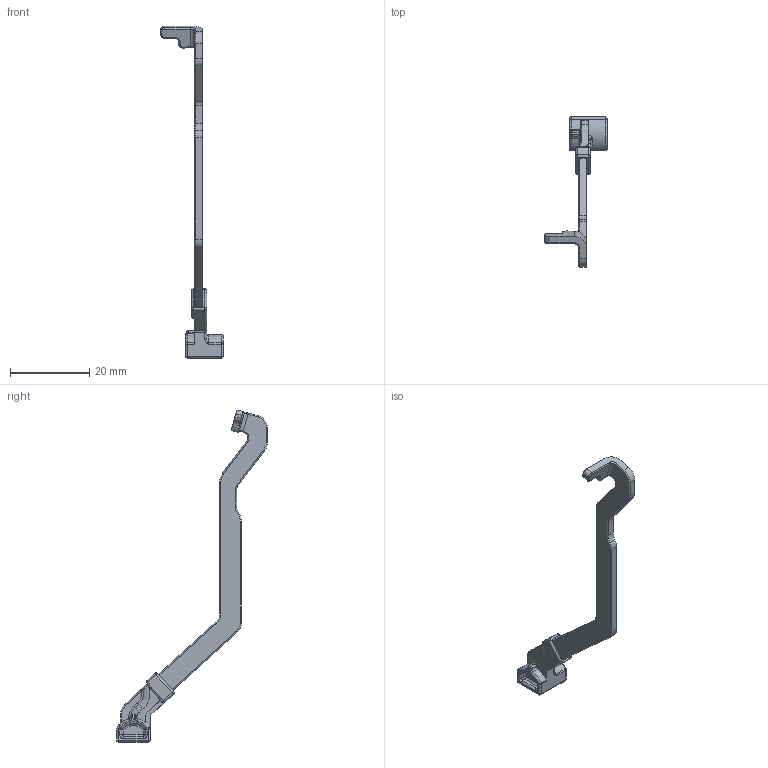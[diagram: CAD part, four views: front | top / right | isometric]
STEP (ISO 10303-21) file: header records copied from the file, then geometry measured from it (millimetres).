
FILE_DESCRIPTION(('CATIA V5 STEP Exchange','CAx-IF Rec.Pracs.--- Model Styling and Organization---1.4--- 2014-01-23'),'2;1');
FILE_NAME('C:\Users\DE-CON~2\AppData\Local\Temp\acs\11136\3059920\CAD00440388-5007-001-_-_CATPRODUCT.stp','2025-06-23T11:10:13+00:00',('none'),('none'),'CATIA Version 5-6 Release 2018 SP3','CATIA V5 STEP AP214','none');
FILE_SCHEMA(('AUTOMOTIVE_DESIGN { 1 0 10303 214 1 1 1 1 }'));
Length unit declared in the file: millimetre
Products named in the file (3): MNM_41539514_00_ENTRAINMENT-NEH_COMPLETE_LH_CAD00440388-5007_001-_-; UMM_45639514_00_OVERMOLD-NEH_MNM_LH_CAD00440388-0017_001-_-; MNM_42639514_00_MNM-NEH_CAD00440388-0018_001-_-
Assembly tree (2 placements, depth 2):
  MNM_41539514_00_ENTRAINMENT-NEH_COMPLETE_LH_CAD00440388-5007_001-_-
    UMM_45639514_00_OVERMOLD-NEH_MNM_LH_CAD00440388-0017_001-_-
    MNM_42639514_00_MNM-NEH_CAD00440388-0018_001-_-
Bounding box: 15.8 x 38.1 x 83.9 mm (x, y, z)
Volume: 1539.8 mm3; surface area: 2281.6 mm2
Topology: 2 solids, 2 shells, 271 faces, 658 edges, 365 vertices
Faces by surface type: cylinder 120, plane 58, torus 54, sphere 22, bspline 17
Entity records: 8413 total; most frequent: CARTESIAN_POINT 2496, ORIENTED_EDGE 1264, DIRECTION 1065, EDGE_CURVE 632, AXIS2_PLACEMENT_3D 547, VERTEX_POINT 365, CIRCLE 291, EDGE_LOOP 273
